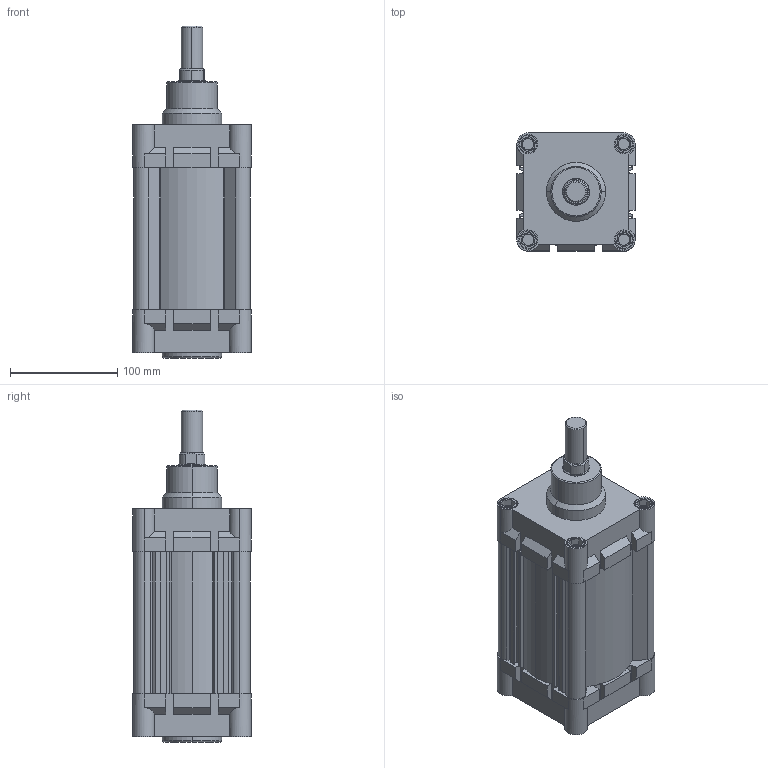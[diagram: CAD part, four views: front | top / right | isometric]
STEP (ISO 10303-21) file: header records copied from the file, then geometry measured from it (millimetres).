
FILE_DESCRIPTION (( 'STEP AP214' ), '1' );
FILE_NAME ('RIC100_75_MY_WEB.STEP', '2020-09-10T17:45:44', ( '' ), ( '' ), 'SwSTEP 2.0', 'SolidWorks 2018', '' );
FILE_SCHEMA (( 'AUTOMOTIVE_DESIGN' ));
Length unit declared in the file: millimetre
Products named in the file (6): RIC100_75_MY_WEB; RIC_100_ON_KAPAK_WEB; rýc100arkakapak; 25_K_MIL_WEB; M12 KAPAK CÝVATASI; RIC_100_BORU_WEB
Assembly tree (12 placements, depth 2):
  RIC100_75_MY_WEB
    RIC_100_ON_KAPAK_WEB
    RIC_100_BORU_WEB
    rýc100arkakapak
    M12 KAPAK CÝVATASI  x8
    25_K_MIL_WEB
Bounding box: 110 x 110 x 309 mm (x, y, z)
Volume: 1348998.2 mm3; surface area: 292834 mm2
Topology: 12 solids, 12 shells, 717 faces, 1793 edges, 1155 vertices
Faces by surface type: plane 362, cylinder 209, bspline 81, cone 59, torus 6
Entity records: 22464 total; most frequent: CARTESIAN_POINT 7800, ORIENTED_EDGE 2746, DIRECTION 2408, EDGE_CURVE 1373, VERTEX_POINT 903, VECTOR 826, LINE 826, AXIS2_PLACEMENT_3D 791
